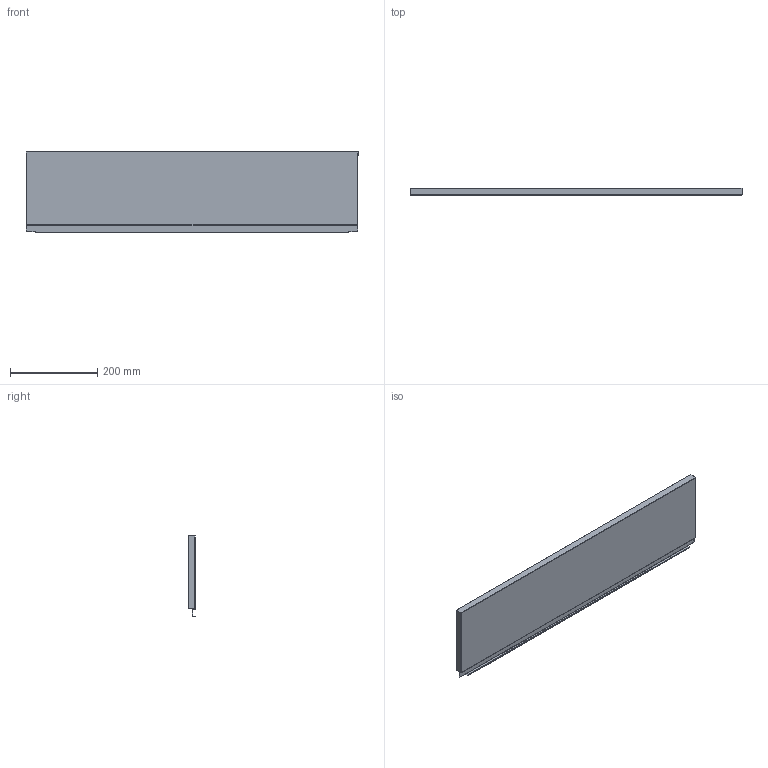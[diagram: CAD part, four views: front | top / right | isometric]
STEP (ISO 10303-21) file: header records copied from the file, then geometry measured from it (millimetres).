
FILE_DESCRIPTION (( 'STEP AP214' ), '1' );
FILE_NAME ('_STRW_H186_KAB_850.step', '2010-08-24T14:40:28', ( 'grass' ), ( '' ), 'SwSTEP 2.0', 'SolidWorks 2009', '' );
FILE_SCHEMA (( 'AUTOMOTIVE_DESIGN' ));
Length unit declared in the file: millimetre
Products named in the file (1): _STRW_H186_KAB_850
Bounding box: 760 x 17 x 186.14 mm (x, y, z)
Volume: 134627.3 mm3; surface area: 338203.6 mm2
Topology: 1 solids, 1 shells, 76 faces, 214 edges, 140 vertices
Faces by surface type: plane 54, cylinder 22
Entity records: 2472 total; most frequent: CARTESIAN_POINT 431, ORIENTED_EDGE 428, DIRECTION 412, EDGE_CURVE 214, LINE 170, VECTOR 170, VERTEX_POINT 140, AXIS2_PLACEMENT_3D 121
